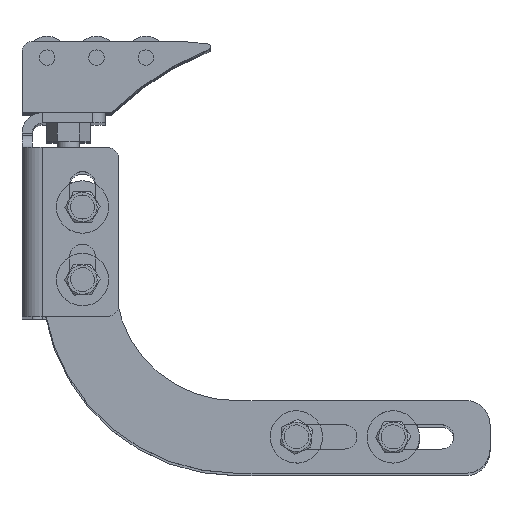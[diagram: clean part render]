
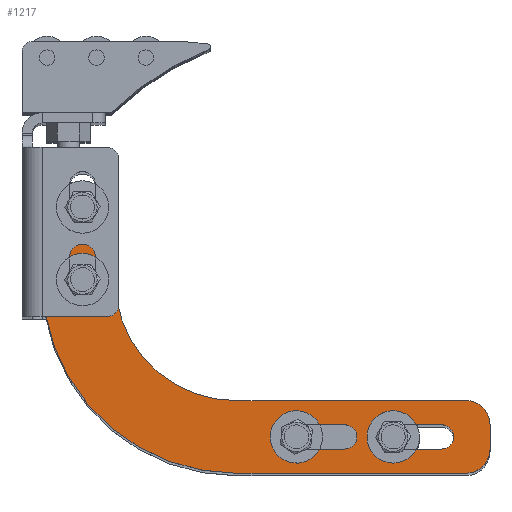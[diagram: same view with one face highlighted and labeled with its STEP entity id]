
A CAD part, top view. The second image highlights one B-rep face of the part: STEP entity #1217.
In plain terms, the highlighted planar face has unit normal (0, 0, 1) as drawn and (0, 0, -1) by its records, which use the part's own axes.
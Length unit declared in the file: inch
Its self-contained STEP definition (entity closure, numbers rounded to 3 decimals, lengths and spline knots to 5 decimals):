
#663=DIRECTION('',(0.,-1.,0.));
#664=VECTOR('',#663,0.75);
#665=CARTESIAN_POINT('',(0.,2.75,-0.25));
#666=LINE('',#665,#664);
#667=CARTESIAN_POINT('',(-0.25,2.75,-0.25));
#668=DIRECTION('',(0.,0.,-1.));
#669=DIRECTION('',(0.,1.,0.));
#670=AXIS2_PLACEMENT_3D('',#667,#668,#669);
#672=DIRECTION('',(1.,0.,0.));
#673=VECTOR('',#672,0.25);
#674=CARTESIAN_POINT('',(-0.5,3.,-0.25));
#675=LINE('',#674,#673);
#676=CARTESIAN_POINT('',(-0.5,2.75,-0.25));
#677=DIRECTION('',(0.,0.,-1.));
#678=DIRECTION('',(-1.,0.,0.));
#679=AXIS2_PLACEMENT_3D('',#676,#677,#678);
#681=DIRECTION('',(0.,1.,0.));
#682=VECTOR('',#681,0.75);
#683=CARTESIAN_POINT('',(-0.75,2.,-0.25));
#684=LINE('',#683,#682);
#685=CARTESIAN_POINT('',(-2.,2.,-0.25));
#686=DIRECTION('',(0.,0.,1.));
#687=DIRECTION('',(0.,-1.,0.));
#688=AXIS2_PLACEMENT_3D('',#685,#686,#687);
#690=DIRECTION('',(1.,0.,0.));
#691=VECTOR('',#690,2.375);
#692=CARTESIAN_POINT('',(-4.375,0.75,-0.25));
#693=LINE('',#692,#691);
#694=CARTESIAN_POINT('',(-4.375,0.5,-0.25));
#695=DIRECTION('',(0.,0.,-1.));
#696=DIRECTION('',(-1.,0.,0.));
#697=AXIS2_PLACEMENT_3D('',#694,#695,#696);
#699=DIRECTION('',(0.,1.,0.));
#700=VECTOR('',#699,0.25);
#701=CARTESIAN_POINT('',(-4.625,0.25,-0.25));
#702=LINE('',#701,#700);
#703=CARTESIAN_POINT('',(-4.375,0.25,-0.25));
#704=DIRECTION('',(0.,0.,-1.));
#705=DIRECTION('',(0.,-1.,0.));
#706=AXIS2_PLACEMENT_3D('',#703,#704,#705);
#708=DIRECTION('',(-1.,0.,0.));
#709=VECTOR('',#708,2.375);
#710=CARTESIAN_POINT('',(-2.,0.,-0.25));
#711=LINE('',#710,#709);
#712=CARTESIAN_POINT('',(-2.,2.,-0.25));
#713=DIRECTION('',(0.,0.,-1.));
#714=DIRECTION('',(1.,0.,0.));
#715=AXIS2_PLACEMENT_3D('',#712,#713,#714);
#717=CARTESIAN_POINT('',(-0.4145,2.,-0.25));
#718=DIRECTION('',(0.,0.,1.));
#719=DIRECTION('',(1.,0.,0.));
#720=AXIS2_PLACEMENT_3D('',#717,#718,#719);
#722=CARTESIAN_POINT('',(-0.4145,2.,-0.25));
#723=DIRECTION('',(0.,0.,1.));
#724=DIRECTION('',(-1.,0.,0.));
#725=AXIS2_PLACEMENT_3D('',#722,#723,#724);
#727=CARTESIAN_POINT('',(-0.4145,2.75,-0.25));
#728=DIRECTION('',(0.,0.,1.));
#729=DIRECTION('',(1.,0.,0.));
#730=AXIS2_PLACEMENT_3D('',#727,#728,#729);
#732=CARTESIAN_POINT('',(-0.4145,2.75,-0.25));
#733=DIRECTION('',(0.,0.,1.));
#734=DIRECTION('',(-1.,0.,0.));
#735=AXIS2_PLACEMENT_3D('',#732,#733,#734);
#737=CARTESIAN_POINT('',(-2.625,0.375,-0.25));
#738=DIRECTION('',(0.,0.,1.));
#739=DIRECTION('',(1.,0.,0.));
#740=AXIS2_PLACEMENT_3D('',#737,#738,#739);
#742=CARTESIAN_POINT('',(-2.625,0.375,-0.25));
#743=DIRECTION('',(0.,0.,1.));
#744=DIRECTION('',(0.,-1.,0.));
#745=AXIS2_PLACEMENT_3D('',#742,#743,#744);
#747=CARTESIAN_POINT('',(-3.125,0.375,-0.25));
#748=DIRECTION('',(0.,0.,1.));
#749=DIRECTION('',(-1.,0.,0.));
#750=AXIS2_PLACEMENT_3D('',#747,#748,#749);
#752=CARTESIAN_POINT('',(-3.125,0.375,-0.25));
#753=DIRECTION('',(0.,0.,1.));
#754=DIRECTION('',(0.,1.,0.));
#755=AXIS2_PLACEMENT_3D('',#752,#753,#754);
#757=CARTESIAN_POINT('',(-3.625,0.375,-0.25));
#758=DIRECTION('',(0.,0.,1.));
#759=DIRECTION('',(1.,0.,0.));
#760=AXIS2_PLACEMENT_3D('',#757,#758,#759);
#762=CARTESIAN_POINT('',(-3.625,0.375,-0.25));
#763=DIRECTION('',(0.,0.,1.));
#764=DIRECTION('',(0.,-1.,0.));
#765=AXIS2_PLACEMENT_3D('',#762,#763,#764);
#767=CARTESIAN_POINT('',(-4.125,0.375,-0.25));
#768=DIRECTION('',(0.,0.,1.));
#769=DIRECTION('',(-1.,0.,0.));
#770=AXIS2_PLACEMENT_3D('',#767,#768,#769);
#772=CARTESIAN_POINT('',(-4.125,0.375,-0.25));
#773=DIRECTION('',(0.,0.,1.));
#774=DIRECTION('',(0.,1.,0.));
#775=AXIS2_PLACEMENT_3D('',#772,#773,#774);
#971=DIRECTION('',(1.,0.,0.));
#972=VECTOR('',#971,0.5);
#973=CARTESIAN_POINT('',(-3.125,0.5,-0.25));
#974=LINE('',#973,#972);
#987=DIRECTION('',(-1.,0.,0.));
#988=VECTOR('',#987,0.5);
#989=CARTESIAN_POINT('',(-2.625,0.25,-0.25));
#990=LINE('',#989,#988);
#999=DIRECTION('',(1.,0.,0.));
#1000=VECTOR('',#999,0.5);
#1001=CARTESIAN_POINT('',(-4.125,0.5,-0.25));
#1002=LINE('',#1001,#1000);
#1015=DIRECTION('',(-1.,0.,0.));
#1016=VECTOR('',#1015,0.5);
#1017=CARTESIAN_POINT('',(-3.625,0.25,-0.25));
#1018=LINE('',#1017,#1016);
#1024=CARTESIAN_POINT('',(-2.625,0.5,-0.25));
#1026=VERTEX_POINT('',#1024);
#1041=CARTESIAN_POINT('',(-0.5,3.,-0.25));
#1042=CARTESIAN_POINT('',(-0.25,3.,-0.25));
#1043=VERTEX_POINT('',#1041);
#1044=VERTEX_POINT('',#1042);
#1045=CARTESIAN_POINT('',(-2.5,0.375,-0.25));
#1046=VERTEX_POINT('',#1045);
#1049=CARTESIAN_POINT('',(-0.75,2.,-0.25));
#1050=CARTESIAN_POINT('',(-0.75,2.75,-0.25));
#1051=VERTEX_POINT('',#1049);
#1052=VERTEX_POINT('',#1050);
#1055=CARTESIAN_POINT('',(0.,2.,-0.25));
#1056=CARTESIAN_POINT('',(-2.,0.,-0.25));
#1057=VERTEX_POINT('',#1055);
#1058=VERTEX_POINT('',#1056);
#1059=CARTESIAN_POINT('',(-0.51293,2.,-0.25));
#1060=VERTEX_POINT('',#1059);
#1063=CARTESIAN_POINT('',(-0.31607,2.,-0.25));
#1064=VERTEX_POINT('',#1063);
#1067=CARTESIAN_POINT('',(-3.625,0.25,-0.25));
#1069=VERTEX_POINT('',#1067);
#1077=CARTESIAN_POINT('',(0.,2.75,-0.25));
#1078=VERTEX_POINT('',#1077);
#1079=CARTESIAN_POINT('',(-4.125,0.5,-0.25));
#1080=CARTESIAN_POINT('',(-4.25,0.375,-0.25));
#1081=VERTEX_POINT('',#1079);
#1082=VERTEX_POINT('',#1080);
#1083=CARTESIAN_POINT('',(-4.125,0.25,-0.25));
#1084=VERTEX_POINT('',#1083);
#1085=CARTESIAN_POINT('',(-4.375,0.,-0.25));
#1086=VERTEX_POINT('',#1085);
#1089=CARTESIAN_POINT('',(-0.31607,2.75,-0.25));
#1090=VERTEX_POINT('',#1089);
#1094=CARTESIAN_POINT('',(-4.625,0.25,-0.25));
#1096=VERTEX_POINT('',#1094);
#1098=CARTESIAN_POINT('',(-3.625,0.5,-0.25));
#1100=VERTEX_POINT('',#1098);
#1107=CARTESIAN_POINT('',(-3.5,0.375,-0.25));
#1108=VERTEX_POINT('',#1107);
#1109=CARTESIAN_POINT('',(-4.625,0.5,-0.25));
#1110=VERTEX_POINT('',#1109);
#1111=CARTESIAN_POINT('',(-2.,0.75,-0.25));
#1112=VERTEX_POINT('',#1111);
#1115=CARTESIAN_POINT('',(-4.375,0.75,-0.25));
#1116=VERTEX_POINT('',#1115);
#1119=CARTESIAN_POINT('',(-2.625,0.25,-0.25));
#1120=VERTEX_POINT('',#1119);
#1121=CARTESIAN_POINT('',(-0.51293,2.75,-0.25));
#1122=VERTEX_POINT('',#1121);
#1123=CARTESIAN_POINT('',(-3.125,0.5,-0.25));
#1124=VERTEX_POINT('',#1123);
#1125=CARTESIAN_POINT('',(-3.125,0.25,-0.25));
#1126=VERTEX_POINT('',#1125);
#1129=CARTESIAN_POINT('',(-3.25,0.375,-0.25));
#1130=VERTEX_POINT('',#1129);
#1147=CARTESIAN_POINT('',(0.,0.,-0.25));
#1148=DIRECTION('',(0.,0.,1.));
#1149=DIRECTION('',(1.,0.,0.));
#1150=AXIS2_PLACEMENT_3D('',#1147,#1148,#1149);
#1151=PLANE('',#1150);
#1153=ORIENTED_EDGE('',*,*,#1152,.F.);
#1155=ORIENTED_EDGE('',*,*,#1154,.F.);
#1157=ORIENTED_EDGE('',*,*,#1156,.F.);
#1159=ORIENTED_EDGE('',*,*,#1158,.F.);
#1161=ORIENTED_EDGE('',*,*,#1160,.F.);
#1163=ORIENTED_EDGE('',*,*,#1162,.F.);
#1165=ORIENTED_EDGE('',*,*,#1164,.F.);
#1167=ORIENTED_EDGE('',*,*,#1166,.F.);
#1169=ORIENTED_EDGE('',*,*,#1168,.F.);
#1171=ORIENTED_EDGE('',*,*,#1170,.F.);
#1173=ORIENTED_EDGE('',*,*,#1172,.F.);
#1174=ORIENTED_EDGE('',*,*,#1136,.F.);
#1175=EDGE_LOOP('',(#1153,#1155,#1157,#1159,#1161,#1163,#1165,#1167,#1169,#1171,
#1173,#1174));
#1176=FACE_OUTER_BOUND('',#1175,.F.);
#1178=ORIENTED_EDGE('',*,*,#1177,.F.);
#1180=ORIENTED_EDGE('',*,*,#1179,.F.);
#1181=EDGE_LOOP('',(#1178,#1180));
#1182=FACE_BOUND('',#1181,.F.);
#1184=ORIENTED_EDGE('',*,*,#1183,.F.);
#1186=ORIENTED_EDGE('',*,*,#1185,.F.);
#1187=EDGE_LOOP('',(#1184,#1186));
#1188=FACE_BOUND('',#1187,.F.);
#1190=ORIENTED_EDGE('',*,*,#1189,.T.);
#1192=ORIENTED_EDGE('',*,*,#1191,.F.);
#1194=ORIENTED_EDGE('',*,*,#1193,.F.);
#1196=ORIENTED_EDGE('',*,*,#1195,.T.);
#1198=ORIENTED_EDGE('',*,*,#1197,.F.);
#1200=ORIENTED_EDGE('',*,*,#1199,.F.);
#1201=EDGE_LOOP('',(#1190,#1192,#1194,#1196,#1198,#1200));
#1202=FACE_BOUND('',#1201,.F.);
#1204=ORIENTED_EDGE('',*,*,#1203,.T.);
#1206=ORIENTED_EDGE('',*,*,#1205,.F.);
#1208=ORIENTED_EDGE('',*,*,#1207,.F.);
#1210=ORIENTED_EDGE('',*,*,#1209,.T.);
#1212=ORIENTED_EDGE('',*,*,#1211,.F.);
#1214=ORIENTED_EDGE('',*,*,#1213,.F.);
#1215=EDGE_LOOP('',(#1204,#1206,#1208,#1210,#1212,#1214));
#1216=FACE_BOUND('',#1215,.F.);
#671=CIRCLE('',#670,0.25);
#680=CIRCLE('',#679,0.25);
#689=CIRCLE('',#688,1.25);
#698=CIRCLE('',#697,0.25);
#707=CIRCLE('',#706,0.25);
#716=CIRCLE('',#715,2.);
#721=CIRCLE('',#720,0.09843);
#726=CIRCLE('',#725,0.09843);
#731=CIRCLE('',#730,0.09843);
#736=CIRCLE('',#735,0.09843);
#741=CIRCLE('',#740,0.125);
#746=CIRCLE('',#745,0.125);
#751=CIRCLE('',#750,0.125);
#756=CIRCLE('',#755,0.125);
#761=CIRCLE('',#760,0.125);
#766=CIRCLE('',#765,0.125);
#771=CIRCLE('',#770,0.125);
#776=CIRCLE('',#775,0.125);
#1136=EDGE_CURVE('',#1057,#1058,#716,.T.);
#1152=EDGE_CURVE('',#1078,#1057,#666,.T.);
#1154=EDGE_CURVE('',#1044,#1078,#671,.T.);
#1156=EDGE_CURVE('',#1043,#1044,#675,.T.);
#1158=EDGE_CURVE('',#1052,#1043,#680,.T.);
#1160=EDGE_CURVE('',#1051,#1052,#684,.T.);
#1162=EDGE_CURVE('',#1112,#1051,#689,.T.);
#1164=EDGE_CURVE('',#1116,#1112,#693,.T.);
#1166=EDGE_CURVE('',#1110,#1116,#698,.T.);
#1168=EDGE_CURVE('',#1096,#1110,#702,.T.);
#1170=EDGE_CURVE('',#1086,#1096,#707,.T.);
#1172=EDGE_CURVE('',#1058,#1086,#711,.T.);
#1177=EDGE_CURVE('',#1064,#1060,#721,.T.);
#1179=EDGE_CURVE('',#1060,#1064,#726,.T.);
#1183=EDGE_CURVE('',#1090,#1122,#731,.T.);
#1185=EDGE_CURVE('',#1122,#1090,#736,.T.);
#1189=EDGE_CURVE('',#1124,#1026,#974,.T.);
#1191=EDGE_CURVE('',#1046,#1026,#741,.T.);
#1193=EDGE_CURVE('',#1120,#1046,#746,.T.);
#1195=EDGE_CURVE('',#1120,#1126,#990,.T.);
#1197=EDGE_CURVE('',#1130,#1126,#751,.T.);
#1199=EDGE_CURVE('',#1124,#1130,#756,.T.);
#1203=EDGE_CURVE('',#1081,#1100,#1002,.T.);
#1205=EDGE_CURVE('',#1108,#1100,#761,.T.);
#1207=EDGE_CURVE('',#1069,#1108,#766,.T.);
#1209=EDGE_CURVE('',#1069,#1084,#1018,.T.);
#1211=EDGE_CURVE('',#1082,#1084,#771,.T.);
#1213=EDGE_CURVE('',#1081,#1082,#776,.T.);
#1217=ADVANCED_FACE('',(#1176,#1182,#1188,#1202,#1216),#1151,.F.);
